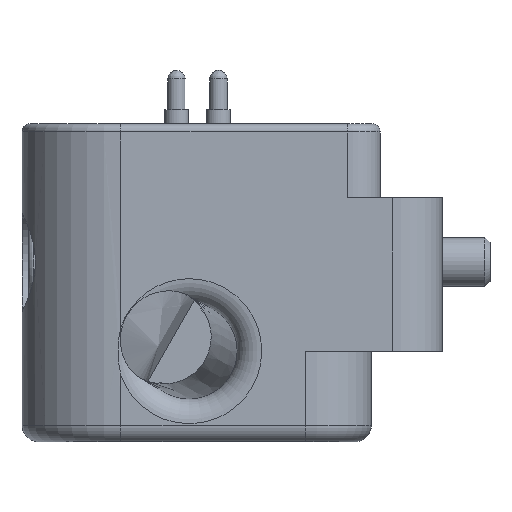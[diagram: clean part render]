
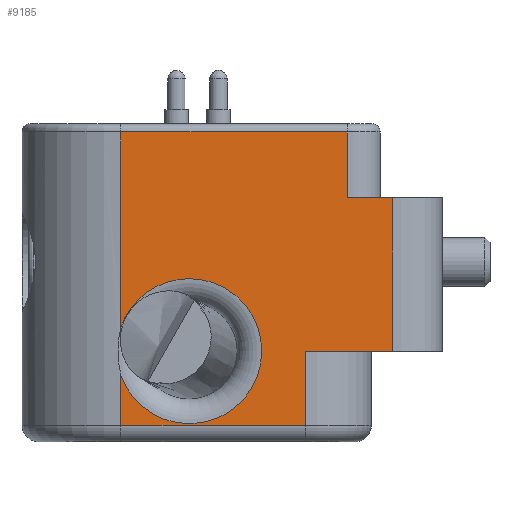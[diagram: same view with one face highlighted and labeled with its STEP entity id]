
A CAD part, left-side view. The second image highlights one B-rep face of the part: STEP entity #9185.
In plain terms, the highlighted planar face has unit normal (-1, 0, 0).
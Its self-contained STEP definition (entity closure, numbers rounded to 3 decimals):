
#675=PLANE('',#10260);
#1160=FACE_OUTER_BOUND('',#1770,.T.);
#1770=EDGE_LOOP('',(#7693,#7694,#7695,#7696,#7697,#7698,#7699,#7700,#7701,
#7702,#7703));
#2291=LINE('',#16610,#2834);
#2301=LINE('',#16647,#2844);
#2311=LINE('',#16684,#2854);
#2318=LINE('',#16743,#2861);
#2325=LINE('',#16758,#2868);
#2326=LINE('',#16762,#2869);
#2327=LINE('',#16767,#2870);
#2328=LINE('',#16769,#2871);
#2329=LINE('',#16770,#2872);
#2834=VECTOR('',#12639,10.);
#2844=VECTOR('',#12683,10.);
#2854=VECTOR('',#12707,10.);
#2861=VECTOR('',#12778,10.);
#2868=VECTOR('',#12793,10.);
#2869=VECTOR('',#12798,10.);
#2870=VECTOR('',#12803,10.);
#2871=VECTOR('',#12804,3.);
#2872=VECTOR('',#12805,10.);
#3518=CIRCLE('',#10261,4.4);
#3519=CIRCLE('',#10262,4.4);
#4205=VERTEX_POINT('',#16521);
#4231=VERTEX_POINT('',#16608);
#4241=VERTEX_POINT('',#16645);
#4255=VERTEX_POINT('',#16682);
#4256=VERTEX_POINT('',#16686);
#4275=VERTEX_POINT('',#16738);
#4279=VERTEX_POINT('',#16757);
#4280=VERTEX_POINT('',#16761);
#4281=VERTEX_POINT('',#16763);
#4282=VERTEX_POINT('',#16765);
#4283=VERTEX_POINT('',#16768);
#5388=EDGE_CURVE('',#4231,#4205,#2291,.T.);
#5407=EDGE_CURVE('',#4241,#4231,#2301,.T.);
#5423=EDGE_CURVE('',#4241,#4255,#2311,.T.);
#5452=EDGE_CURVE('',#4256,#4275,#2318,.T.);
#5460=EDGE_CURVE('',#4275,#4279,#2325,.T.);
#5462=EDGE_CURVE('',#4280,#4256,#2326,.T.);
#5463=EDGE_CURVE('',#4281,#4280,#3518,.T.);
#5464=EDGE_CURVE('',#4282,#4281,#3519,.T.);
#5465=EDGE_CURVE('',#4205,#4282,#2327,.T.);
#5466=EDGE_CURVE('',#4283,#4255,#2328,.T.);
#5467=EDGE_CURVE('',#4283,#4279,#2329,.T.);
#7693=ORIENTED_EDGE('',*,*,#5452,.F.);
#7694=ORIENTED_EDGE('',*,*,#5462,.F.);
#7695=ORIENTED_EDGE('',*,*,#5463,.F.);
#7696=ORIENTED_EDGE('',*,*,#5464,.F.);
#7697=ORIENTED_EDGE('',*,*,#5465,.F.);
#7698=ORIENTED_EDGE('',*,*,#5388,.F.);
#7699=ORIENTED_EDGE('',*,*,#5407,.F.);
#7700=ORIENTED_EDGE('',*,*,#5423,.T.);
#7701=ORIENTED_EDGE('',*,*,#5466,.F.);
#7702=ORIENTED_EDGE('',*,*,#5467,.T.);
#7703=ORIENTED_EDGE('',*,*,#5460,.F.);
#9185=ADVANCED_FACE('',(#1160),#675,.T.);
#10260=AXIS2_PLACEMENT_3D('',#16760,#12796,#12797);
#10261=AXIS2_PLACEMENT_3D('',#16764,#12799,#12800);
#10262=AXIS2_PLACEMENT_3D('',#16766,#12801,#12802);
#12639=DIRECTION('',(0.,1.,0.));
#12683=DIRECTION('',(0.,0.,-1.));
#12707=DIRECTION('',(0.,-1.,0.));
#12778=DIRECTION('',(0.,-1.,0.));
#12793=DIRECTION('',(0.,0.,-1.));
#12796=DIRECTION('center_axis',(-1.,0.,0.));
#12797=DIRECTION('ref_axis',(0.,0.,
1.));
#12798=DIRECTION('',(0.,0.,1.));
#12799=DIRECTION('center_axis',(-1.,0.,0.));
#12800=DIRECTION('ref_axis',(0.,0.,
-1.));
#12801=DIRECTION('center_axis',(-1.,0.,0.));
#12802=DIRECTION('ref_axis',(0.,0.,
-1.));
#12803=DIRECTION('',(0.,0.,1.));
#12804=DIRECTION('',(0.,0.,-1.));
#12805=DIRECTION('',(0.,1.,0.));
#16521=CARTESIAN_POINT('',(-19.,0.65,-4.5));
#16608=CARTESIAN_POINT('',(-19.,-10.55,-4.5));
#16610=CARTESIAN_POINT('',(-19.,-9.25,-4.5));
#16645=CARTESIAN_POINT('',(-19.,-10.55,0.));
#16647=CARTESIAN_POINT('',(-19.,-10.55,-5.5));
#16682=CARTESIAN_POINT('',(-19.,-15.85,0.));
#16684=CARTESIAN_POINT('',(-19.,6.65,0.));
#16686=CARTESIAN_POINT('',(-19.,0.65,13.3));
#16738=CARTESIAN_POINT('',(-19.,-13.09,13.3));
#16743=CARTESIAN_POINT('',(-19.,-12.475,13.3));
#16757=CARTESIAN_POINT('',(-19.,-13.09,9.3));
#16758=CARTESIAN_POINT('',(-19.,-13.09,13.8));
#16760=CARTESIAN_POINT('Origin',(-19.,-18.85,0.));
#16761=CARTESIAN_POINT('',(-19.,0.65,1.462));
#16762=CARTESIAN_POINT('',(-19.,0.65,0.));
#16763=CARTESIAN_POINT('',(-19.,-3.5,4.4));
#16764=CARTESIAN_POINT('Origin',(-19.,-3.5,0.));
#16765=CARTESIAN_POINT('',(-19.,0.65,-1.462));
#16766=CARTESIAN_POINT('Origin',(-19.,-3.5,0.));
#16767=CARTESIAN_POINT('',(-19.,0.65,-5.5));
#16768=CARTESIAN_POINT('',(-19.,-15.85,9.3));
#16769=CARTESIAN_POINT('',(-19.,-15.85,0.));
#16770=CARTESIAN_POINT('',(-19.,-18.002,9.3));
